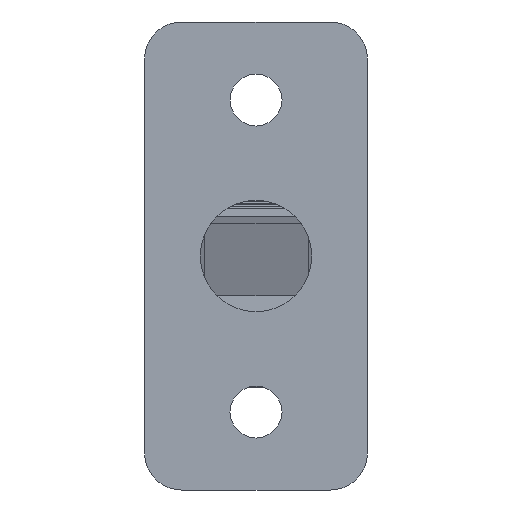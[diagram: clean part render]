
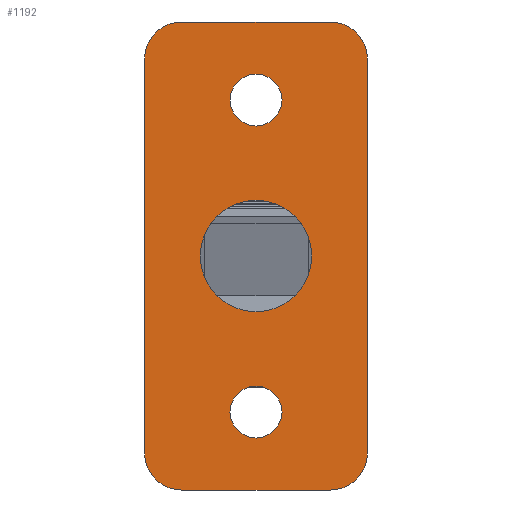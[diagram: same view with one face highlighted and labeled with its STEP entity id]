
A CAD part, front view. The second image highlights one B-rep face of the part: STEP entity #1192.
In plain terms, the highlighted planar face has unit normal (0, -1, 0).
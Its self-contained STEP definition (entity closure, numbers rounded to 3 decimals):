
#8 = EDGE_CURVE ( 'NONE', #2977, #4410, #3305, .T. ) ;
#16 = ORIENTED_EDGE ( 'NONE', *, *, #4785, .T. ) ;
#53 = EDGE_CURVE ( 'NONE', #5359, #3180, #2990, .T. ) ;
#204 = CARTESIAN_POINT ( 'NONE',  ( -30., -8., -53. ) ) ;
#211 = LINE ( 'NONE', #2813, #4244 ) ;
#222 = VERTEX_POINT ( 'NONE', #5609 ) ;
#260 = CARTESIAN_POINT ( 'NONE',  ( 0., -8., 42. ) ) ;
#378 = DIRECTION ( 'NONE',  ( 0., 1., 0. ) ) ;
#493 = CARTESIAN_POINT ( 'NONE',  ( -30., -8., -53. ) ) ;
#546 = AXIS2_PLACEMENT_3D ( 'NONE', #4676, #1664, #5188 ) ;
#550 = EDGE_LOOP ( 'NONE', ( #1534, #5440 ) ) ;
#559 = VERTEX_POINT ( 'NONE', #493 ) ;
#776 = DIRECTION ( 'NONE',  ( -1., 0., 0. ) ) ;
#778 = ORIENTED_EDGE ( 'NONE', *, *, #5379, .F. ) ;
#857 = CARTESIAN_POINT ( 'NONE',  ( 30., -8., 53. ) ) ;
#887 = EDGE_CURVE ( 'NONE', #3180, #2948, #211, .T. ) ;
#900 = EDGE_LOOP ( 'NONE', ( #5676, #2960, #5528, #6205, #4373, #2827, #778, #5787 ) ) ;
#940 = CARTESIAN_POINT ( 'NONE',  ( 0., -8., -42. ) ) ;
#941 = CARTESIAN_POINT ( 'NONE',  ( 20., -8., -63. ) ) ;
#963 = CARTESIAN_POINT ( 'NONE',  ( -20., -8., -53. ) ) ;
#1009 = FACE_BOUND ( 'NONE', #3731, .T. ) ;
#1027 = CARTESIAN_POINT ( 'NONE',  ( -7., -8., -42. ) ) ;
#1132 = CARTESIAN_POINT ( 'NONE',  ( 30., -8., -53. ) ) ;
#1192 = ADVANCED_FACE ( 'NONE', ( #2363, #5017, #1009, #6197 ), #2966, .T. ) ;
#1267 = CARTESIAN_POINT ( 'NONE',  ( -30., -8., 53. ) ) ;
#1388 = CIRCLE ( 'NONE', #2121, 10. ) ;
#1411 = EDGE_CURVE ( 'NONE', #4410, #5670, #6120, .T. ) ;
#1417 = ORIENTED_EDGE ( 'NONE', *, *, #4557, .T. ) ;
#1439 = DIRECTION ( 'NONE',  ( 0., 1., 0. ) ) ;
#1446 = DIRECTION ( 'NONE',  ( -1., 0., 0. ) ) ;
#1456 = VECTOR ( 'NONE', #2653, 1000. ) ;
#1458 = ORIENTED_EDGE ( 'NONE', *, *, #6460, .T. ) ;
#1466 = DIRECTION ( 'NONE',  ( 1., 0., 0. ) ) ;
#1522 = AXIS2_PLACEMENT_3D ( 'NONE', #2065, #5576, #2579 ) ;
#1534 = ORIENTED_EDGE ( 'NONE', *, *, #4704, .T. ) ;
#1541 = VERTEX_POINT ( 'NONE', #1267 ) ;
#1574 = AXIS2_PLACEMENT_3D ( 'NONE', #4695, #1685, #5203 ) ;
#1663 = VECTOR ( 'NONE', #3253, 1000. ) ;
#1664 = DIRECTION ( 'NONE',  ( 0., 1., 0. ) ) ;
#1675 = CIRCLE ( 'NONE', #4807, 15. ) ;
#1685 = DIRECTION ( 'NONE',  ( 0., 1., 0. ) ) ;
#1693 = CIRCLE ( 'NONE', #6369, 7. ) ;
#1717 = EDGE_CURVE ( 'NONE', #2948, #559, #1388, .T. ) ;
#1861 = CARTESIAN_POINT ( 'NONE',  ( 15., -8., 0. ) ) ;
#1975 = VECTOR ( 'NONE', #6431, 1000. ) ;
#2065 = CARTESIAN_POINT ( 'NONE',  ( -20., -8., 53. ) ) ;
#2101 = VERTEX_POINT ( 'NONE', #1861 ) ;
#2121 = AXIS2_PLACEMENT_3D ( 'NONE', #4458, #1439, #4948 ) ;
#2149 = CARTESIAN_POINT ( 'NONE',  ( 7., -8., 42. ) ) ;
#2190 = VERTEX_POINT ( 'NONE', #4431 ) ;
#2216 = CARTESIAN_POINT ( 'NONE',  ( 0., -8., 0. ) ) ;
#2252 = DIRECTION ( 'NONE',  ( 0., 1., 0. ) ) ;
#2363 = FACE_BOUND ( 'NONE', #550, .T. ) ;
#2480 = CARTESIAN_POINT ( 'NONE',  ( 20., -8., -53. ) ) ;
#2552 = EDGE_CURVE ( 'NONE', #4597, #3695, #1693, .T. ) ;
#2579 = DIRECTION ( 'NONE',  ( -1., 0., 0. ) ) ;
#2586 = AXIS2_PLACEMENT_3D ( 'NONE', #5254, #2252, #5772 ) ;
#2653 = DIRECTION ( 'NONE',  ( 0., 0., -1. ) ) ;
#2732 = DIRECTION ( 'NONE',  ( -1., 0., 0. ) ) ;
#2774 = EDGE_CURVE ( 'NONE', #5670, #5359, #5632, .T. ) ;
#2813 = CARTESIAN_POINT ( 'NONE',  ( -20., -8., -63. ) ) ;
#2827 = ORIENTED_EDGE ( 'NONE', *, *, #8, .F. ) ;
#2923 = AXIS2_PLACEMENT_3D ( 'NONE', #3402, #378, #3907 ) ;
#2948 = VERTEX_POINT ( 'NONE', #3279 ) ;
#2960 = ORIENTED_EDGE ( 'NONE', *, *, #887, .F. ) ;
#2966 = PLANE ( 'NONE',  #3459 ) ;
#2971 = DIRECTION ( 'NONE',  ( 1., 0., 0. ) ) ;
#2977 = VERTEX_POINT ( 'NONE', #3820 ) ;
#2990 = CIRCLE ( 'NONE', #5117, 10. ) ;
#3091 = CIRCLE ( 'NONE', #1522, 10. ) ;
#3180 = VERTEX_POINT ( 'NONE', #941 ) ;
#3253 = DIRECTION ( 'NONE',  ( 0., 0., 1. ) ) ;
#3279 = CARTESIAN_POINT ( 'NONE',  ( -20., -8., -63. ) ) ;
#3305 = LINE ( 'NONE', #5924, #1975 ) ;
#3373 = AXIS2_PLACEMENT_3D ( 'NONE', #940, #4465, #1446 ) ;
#3402 = CARTESIAN_POINT ( 'NONE',  ( 0., -8., -42. ) ) ;
#3459 = AXIS2_PLACEMENT_3D ( 'NONE', #963, #4485, #1466 ) ;
#3535 = CARTESIAN_POINT ( 'NONE',  ( 30., -8., -53. ) ) ;
#3695 = VERTEX_POINT ( 'NONE', #2149 ) ;
#3731 = EDGE_LOOP ( 'NONE', ( #16, #3940 ) ) ;
#3801 = DIRECTION ( 'NONE',  ( 0., 1., 0. ) ) ;
#3818 = CARTESIAN_POINT ( 'NONE',  ( 20., -8., 63. ) ) ;
#3820 = CARTESIAN_POINT ( 'NONE',  ( -20., -8., 63. ) ) ;
#3907 = DIRECTION ( 'NONE',  ( -1., 0., 0. ) ) ;
#3940 = ORIENTED_EDGE ( 'NONE', *, *, #5080, .T. ) ;
#4244 = VECTOR ( 'NONE', #5831, 1000. ) ;
#4344 = LINE ( 'NONE', #204, #1663 ) ;
#4373 = ORIENTED_EDGE ( 'NONE', *, *, #1411, .F. ) ;
#4410 = VERTEX_POINT ( 'NONE', #3818 ) ;
#4431 = CARTESIAN_POINT ( 'NONE',  ( -15., -8., 0. ) ) ;
#4458 = CARTESIAN_POINT ( 'NONE',  ( -20., -8., -53. ) ) ;
#4465 = DIRECTION ( 'NONE',  ( 0., 1., 0. ) ) ;
#4485 = DIRECTION ( 'NONE',  ( 0., -1., 0. ) ) ;
#4557 = EDGE_CURVE ( 'NONE', #222, #4659, #4673, .T. ) ;
#4597 = VERTEX_POINT ( 'NONE', #6512 ) ;
#4659 = VERTEX_POINT ( 'NONE', #1027 ) ;
#4673 = CIRCLE ( 'NONE', #3373, 7. ) ;
#4676 = CARTESIAN_POINT ( 'NONE',  ( 0., -8., 42. ) ) ;
#4695 = CARTESIAN_POINT ( 'NONE',  ( 20., -8., 53. ) ) ;
#4704 = EDGE_CURVE ( 'NONE', #3695, #4597, #4909, .T. ) ;
#4785 = EDGE_CURVE ( 'NONE', #2101, #2190, #5943, .T. ) ;
#4807 = AXIS2_PLACEMENT_3D ( 'NONE', #2216, #5742, #2732 ) ;
#4909 = CIRCLE ( 'NONE', #546, 7. ) ;
#4948 = DIRECTION ( 'NONE',  ( 1., 0., 0. ) ) ;
#4959 = CIRCLE ( 'NONE', #2923, 7. ) ;
#5017 = FACE_OUTER_BOUND ( 'NONE', #900, .T. ) ;
#5066 = EDGE_LOOP ( 'NONE', ( #1417, #1458 ) ) ;
#5080 = EDGE_CURVE ( 'NONE', #2190, #2101, #1675, .T. ) ;
#5117 = AXIS2_PLACEMENT_3D ( 'NONE', #2480, #5990, #2971 ) ;
#5188 = DIRECTION ( 'NONE',  ( -1., 0., 0. ) ) ;
#5203 = DIRECTION ( 'NONE',  ( 1., 0., 0. ) ) ;
#5254 = CARTESIAN_POINT ( 'NONE',  ( 0., -8., 0. ) ) ;
#5359 = VERTEX_POINT ( 'NONE', #3535 ) ;
#5379 = EDGE_CURVE ( 'NONE', #1541, #2977, #3091, .T. ) ;
#5440 = ORIENTED_EDGE ( 'NONE', *, *, #2552, .T. ) ;
#5528 = ORIENTED_EDGE ( 'NONE', *, *, #53, .F. ) ;
#5576 = DIRECTION ( 'NONE',  ( 0., 1., 0. ) ) ;
#5609 = CARTESIAN_POINT ( 'NONE',  ( 7., -8., -42. ) ) ;
#5632 = LINE ( 'NONE', #1132, #1456 ) ;
#5670 = VERTEX_POINT ( 'NONE', #857 ) ;
#5676 = ORIENTED_EDGE ( 'NONE', *, *, #1717, .F. ) ;
#5742 = DIRECTION ( 'NONE',  ( 0., 1., 0. ) ) ;
#5772 = DIRECTION ( 'NONE',  ( -1., 0., 0. ) ) ;
#5787 = ORIENTED_EDGE ( 'NONE', *, *, #6092, .F. ) ;
#5831 = DIRECTION ( 'NONE',  ( -1., 0., 0. ) ) ;
#5924 = CARTESIAN_POINT ( 'NONE',  ( -20., -8., 63. ) ) ;
#5943 = CIRCLE ( 'NONE', #2586, 15. ) ;
#5990 = DIRECTION ( 'NONE',  ( 0., 1., 0. ) ) ;
#6092 = EDGE_CURVE ( 'NONE', #559, #1541, #4344, .T. ) ;
#6120 = CIRCLE ( 'NONE', #1574, 10. ) ;
#6197 = FACE_BOUND ( 'NONE', #5066, .T. ) ;
#6205 = ORIENTED_EDGE ( 'NONE', *, *, #2774, .F. ) ;
#6369 = AXIS2_PLACEMENT_3D ( 'NONE', #260, #3801, #776 ) ;
#6431 = DIRECTION ( 'NONE',  ( 1., 0., 0. ) ) ;
#6460 = EDGE_CURVE ( 'NONE', #4659, #222, #4959, .T. ) ;
#6512 = CARTESIAN_POINT ( 'NONE',  ( -7., -8., 42. ) ) ;
